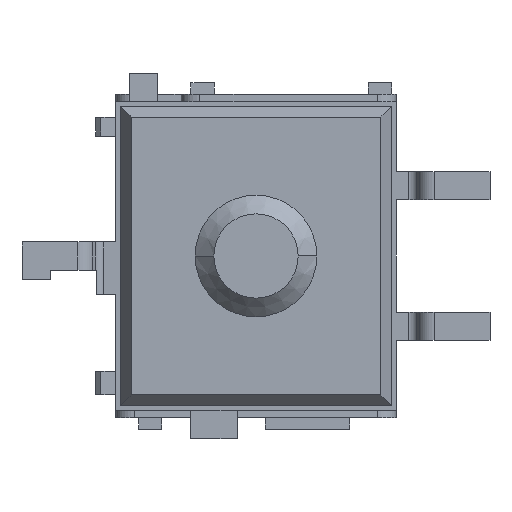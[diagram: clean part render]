
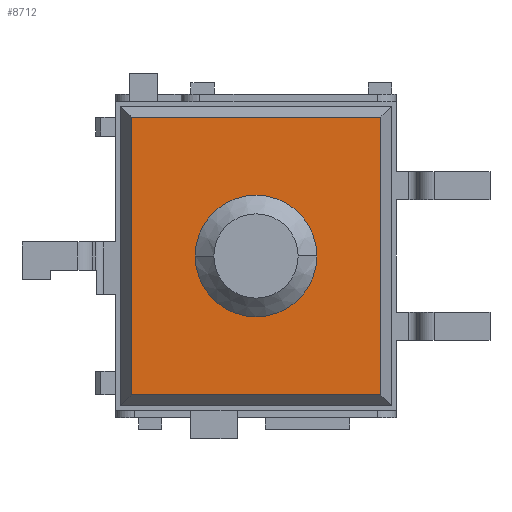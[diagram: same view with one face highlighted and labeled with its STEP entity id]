
A CAD part, front view. The second image highlights one B-rep face of the part: STEP entity #8712.
In plain terms, the highlighted planar face has unit normal (0, -1, 0).
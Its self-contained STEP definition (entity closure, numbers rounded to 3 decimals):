
#251 = VECTOR ( 'NONE', #10135, 1000. ) ;
#255 = LINE ( 'NONE', #10134, #251 ) ;
#259 = LINE ( 'NONE', #10136, #267 ) ;
#261 = LINE ( 'NONE', #10127, #263 ) ;
#262 = CIRCLE ( 'NONE', #3032, 0.65 ) ;
#263 = VECTOR ( 'NONE', #10137, 1000. ) ;
#265 = LINE ( 'NONE', #10138, #266 ) ;
#266 = VECTOR ( 'NONE', #10139, 1000. ) ;
#267 = VECTOR ( 'NONE', #10142, 1000. ) ;
#1383 = CARTESIAN_POINT ( 'NONE',  ( -0.65, -0.2, 0. ) ) ;
#2969 = VERTEX_POINT ( 'NONE', #1383 ) ;
#3032 = AXIS2_PLACEMENT_3D ( 'NONE', #10130, #10132, #10133 ) ;
#3230 = VERTEX_POINT ( 'NONE', #9896 ) ;
#4490 = ORIENTED_EDGE ( 'NONE', *, *, #5061, .F. ) ;
#4491 = ORIENTED_EDGE ( 'NONE', *, *, #5060, .F. ) ;
#4492 = ORIENTED_EDGE ( 'NONE', *, *, #5059, .T. ) ;
#4493 = ORIENTED_EDGE ( 'NONE', *, *, #5062, .F. ) ;
#4494 = ORIENTED_EDGE ( 'NONE', *, *, #5058, .F. ) ;
#4495 = ORIENTED_EDGE ( 'NONE', *, *, #8407, .F. ) ;
#5058 = EDGE_CURVE ( 'NONE', #2969, #3230, #262, .T. ) ;
#5059 = EDGE_CURVE ( 'NONE', #9783, #9669, #255, .T. ) ;
#5060 = EDGE_CURVE ( 'NONE', #9783, #9652, #261, .T. ) ;
#5061 = EDGE_CURVE ( 'NONE', #9652, #9742, #265, .T. ) ;
#5062 = EDGE_CURVE ( 'NONE', #9742, #9669, #259, .T. ) ;
#5685 = CARTESIAN_POINT ( 'NONE',  ( 0., -0.2, 0. ) ) ;
#5693 = DIRECTION ( 'NONE',  ( 0., -1., 0. ) ) ;
#5694 = DIRECTION ( 'NONE',  ( 1., 0., 0. ) ) ;
#6273 = AXIS2_PLACEMENT_3D ( 'NONE', #7365, #7377, #7378 ) ;
#6768 = AXIS2_PLACEMENT_3D ( 'NONE', #5685, #5693, #5694 ) ;
#6934 = FACE_BOUND ( 'NONE', #9013, .T. ) ;
#6960 = FACE_OUTER_BOUND ( 'NONE', #9005, .T. ) ;
#7365 = CARTESIAN_POINT ( 'NONE',  ( 1.45, -0.2, -1.6 ) ) ;
#7369 = PLANE ( 'NONE',  #6273 ) ;
#7377 = DIRECTION ( 'NONE',  ( 0., -1., 0. ) ) ;
#7378 = DIRECTION ( 'NONE',  ( 1., 0., 0. ) ) ;
#7643 = CARTESIAN_POINT ( 'NONE',  ( -1.335, -0.2, -1.485 ) ) ;
#7660 = CARTESIAN_POINT ( 'NONE',  ( 1.335, -0.2, 1.485 ) ) ;
#7733 = CARTESIAN_POINT ( 'NONE',  ( -1.335, -0.2, 1.485 ) ) ;
#7771 = CARTESIAN_POINT ( 'NONE',  ( 1.335, -0.2, -1.485 ) ) ;
#8407 = EDGE_CURVE ( 'NONE', #3230, #2969, #9601, .T. ) ;
#8712 = ADVANCED_FACE ( 'NONE', ( #6960, #6934 ), #7369, .T. ) ;
#9005 = EDGE_LOOP ( 'NONE', ( #4490, #4491, #4492, #4493 ) ) ;
#9013 = EDGE_LOOP ( 'NONE', ( #4494, #4495 ) ) ;
#9601 = CIRCLE ( 'NONE', #6768, 0.65 ) ;
#9652 = VERTEX_POINT ( 'NONE', #7643 ) ;
#9669 = VERTEX_POINT ( 'NONE', #7660 ) ;
#9742 = VERTEX_POINT ( 'NONE', #7733 ) ;
#9783 = VERTEX_POINT ( 'NONE', #7771 ) ;
#9896 = CARTESIAN_POINT ( 'NONE',  ( 0.65, -0.2, 0. ) ) ;
#10127 = CARTESIAN_POINT ( 'NONE',  ( 1.45, -0.2, -1.485 ) ) ;
#10130 = CARTESIAN_POINT ( 'NONE',  ( 0., -0.2, 0. ) ) ;
#10132 = DIRECTION ( 'NONE',  ( 0., -1., 0. ) ) ;
#10133 = DIRECTION ( 'NONE',  ( 1., 0., 0. ) ) ;
#10134 = CARTESIAN_POINT ( 'NONE',  ( 1.335, -0.2, -1.65 ) ) ;
#10135 = DIRECTION ( 'NONE',  ( 0., 0., 1. ) ) ;
#10136 = CARTESIAN_POINT ( 'NONE',  ( 1.45, -0.2, 1.485 ) ) ;
#10137 = DIRECTION ( 'NONE',  ( -1., 0., 0. ) ) ;
#10138 = CARTESIAN_POINT ( 'NONE',  ( -1.335, -0.2, -1.65 ) ) ;
#10139 = DIRECTION ( 'NONE',  ( 0., 0., 1. ) ) ;
#10142 = DIRECTION ( 'NONE',  ( 1., 0., 0. ) ) ;
